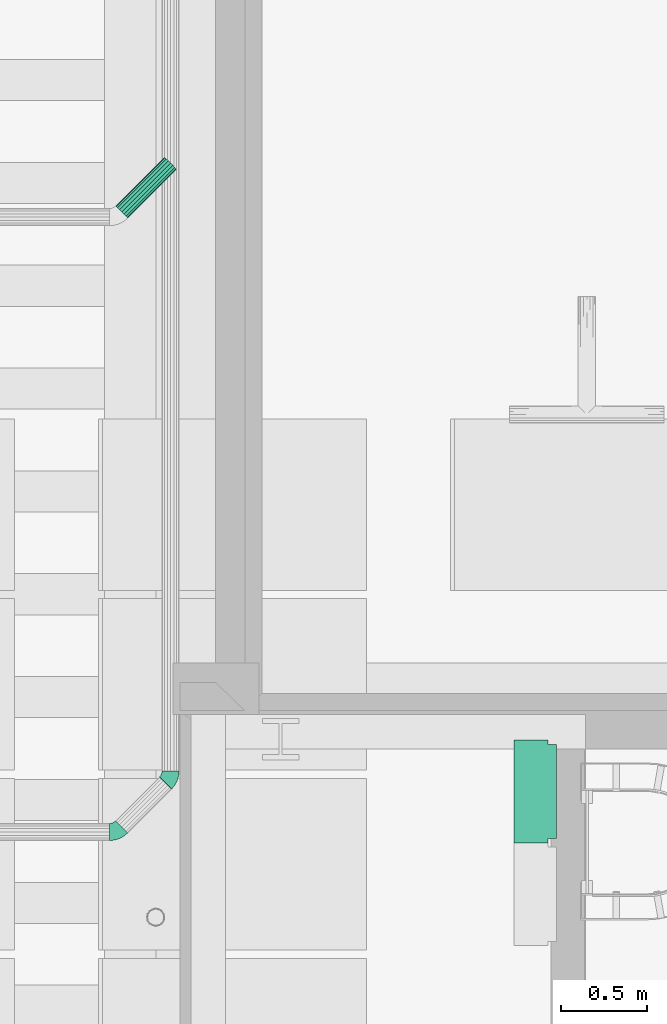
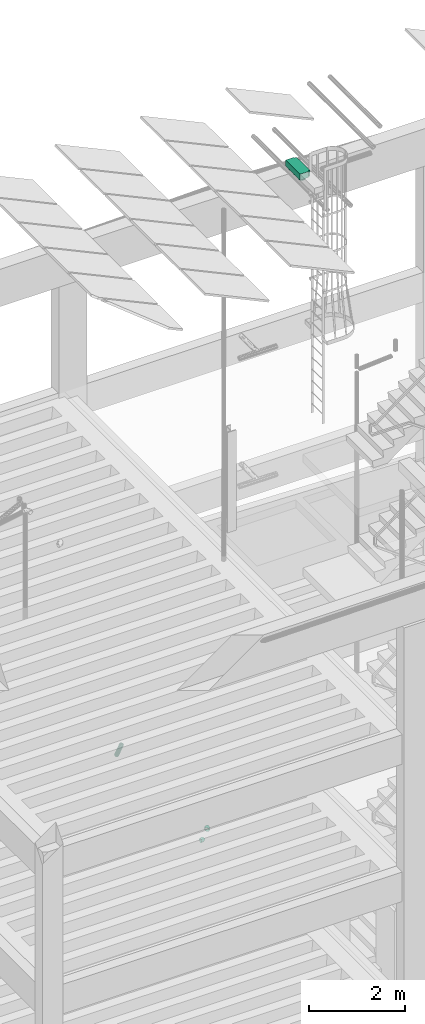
# One storey, part 84 of 108: 3 flow fittings, 1 flow segment.
"""IFC2X3 building model written with IfcOpenShell, lengths in metres."""

from ifc_helpers import new_model, entity, si_unit, converted_unit, derived_unit, money_unit, direction, frame, origin_with_axes, place, context, subcontext, project, spatial, open_shell, faceted_brep, surface_model, material, type_object, element, save


model = new_model("IFC2X3")

# Units and contexts
model_context = context("Model", 3, precision=1e-05, world=origin_with_axes(), true_north=direction((0.0, 1.0)))
body_context = subcontext(model_context, "Body", "Model", "MODEL_VIEW", scale=1.0)
ifc_project = project(units=[si_unit("LENGTHUNIT", "METRE"), si_unit("AREAUNIT", "SQUARE_METRE"), si_unit("VOLUMEUNIT", "CUBIC_METRE"), si_unit("ABSORBEDDOSEUNIT", "GRAY"), si_unit("AMOUNTOFSUBSTANCEUNIT", "MOLE"), si_unit("DOSEEQUIVALENTUNIT", "SIEVERT"), si_unit("ELECTRICCAPACITANCEUNIT", "FARAD"), si_unit("ELECTRICCHARGEUNIT", "COULOMB"), si_unit("ELECTRICCONDUCTANCEUNIT", "SIEMENS"), si_unit("ELECTRICCURRENTUNIT", "AMPERE"), si_unit("ELECTRICRESISTANCEUNIT", "OHM"), si_unit("ELECTRICVOLTAGEUNIT", "VOLT"), si_unit("ENERGYUNIT", "JOULE"), si_unit("FORCEUNIT", "NEWTON"), si_unit("FREQUENCYUNIT", "HERTZ"), si_unit("ILLUMINANCEUNIT", "LUX"), si_unit("INDUCTANCEUNIT", "HENRY"), si_unit("LUMINOUSFLUXUNIT", "LUMEN"), si_unit("LUMINOUSINTENSITYUNIT", "CANDELA"), si_unit("MAGNETICFLUXDENSITYUNIT", "TESLA"), si_unit("MAGNETICFLUXUNIT", "WEBER"), si_unit("MASSUNIT", "GRAM"), converted_unit("PLANEANGLEUNIT", "degree", entity("IfcReal", 0.0174532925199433), si_unit("PLANEANGLEUNIT", "RADIAN"), dimensions=[0, 0, 0, 0, 0, 0, 0]), si_unit("POWERUNIT", "WATT"), si_unit("PRESSUREUNIT", "PASCAL"), si_unit("RADIOACTIVITYUNIT", "BECQUEREL"), si_unit("SOLIDANGLEUNIT", "STERADIAN"), si_unit("THERMODYNAMICTEMPERATUREUNIT", "KELVIN"), si_unit("TIMEUNIT", "SECOND"), derived_unit("ACCELERATIONUNIT", [(si_unit("LENGTHUNIT", "METRE"), 1), (si_unit("TIMEUNIT", "SECOND"), -2)]), derived_unit("ANGULARVELOCITYUNIT", [(converted_unit("PLANEANGLEUNIT", "degree", entity("IfcReal", 0.0174532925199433), si_unit("PLANEANGLEUNIT", "RADIAN"), dimensions=[0, 0, 0, 0, 0, 0, 0]), 1), (si_unit("TIMEUNIT", "SECOND"), -1)]), derived_unit("CURVATUREUNIT", [(converted_unit("PLANEANGLEUNIT", "degree", entity("IfcReal", 0.0174532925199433), si_unit("PLANEANGLEUNIT", "RADIAN"), dimensions=[0, 0, 0, 0, 0, 0, 0]), 1), (si_unit("LENGTHUNIT", "METRE"), -1)]), derived_unit("DYNAMICVISCOSITYUNIT", [(si_unit("PRESSUREUNIT", "PASCAL"), 1), (si_unit("TIMEUNIT", "SECOND"), 1)]), derived_unit("HEATFLUXDENSITYUNIT", [(si_unit("POWERUNIT", "WATT"), 1), (si_unit("LENGTHUNIT", "METRE"), -2)]), derived_unit("HEATINGVALUEUNIT", [(si_unit("ENERGYUNIT", "JOULE"), 1), (si_unit("MASSUNIT", "GRAM"), -1)]), derived_unit("INTEGERCOUNTRATEUNIT", [(si_unit("TIMEUNIT", "SECOND"), -1)]), derived_unit("IONCONCENTRATIONUNIT", [(si_unit("MASSUNIT", "GRAM"), 1), (si_unit("VOLUMEUNIT", "CUBIC_METRE"), -1)]), derived_unit("ISOTHERMALMOISTURECAPACITYUNIT", [(si_unit("VOLUMEUNIT", "CUBIC_METRE"), 1), (si_unit("MASSUNIT", "GRAM"), -1)]), derived_unit("KINEMATICVISCOSITYUNIT", [(si_unit("AREAUNIT", "SQUARE_METRE"), 1), (si_unit("TIMEUNIT", "SECOND"), -1)]), derived_unit("LINEARFORCEUNIT", [(si_unit("FORCEUNIT", "NEWTON"), 1), (si_unit("LENGTHUNIT", "METRE"), -1)]), derived_unit("LINEARMOMENTUNIT", [(si_unit("FORCEUNIT", "NEWTON"), 1), (si_unit("LENGTHUNIT", "METRE"), -1)]), derived_unit("LINEARSTIFFNESSUNIT", [(si_unit("FORCEUNIT", "NEWTON"), 1), (si_unit("LENGTHUNIT", "METRE"), -1)]), derived_unit("LINEARVELOCITYUNIT", [(si_unit("LENGTHUNIT", "METRE"), 1), (si_unit("TIMEUNIT", "SECOND"), -1)]), derived_unit("LUMINOUSINTENSITYDISTRIBUTIONUNIT", [(si_unit("LUMINOUSINTENSITYUNIT", "CANDELA"), 1), (si_unit("LUMINOUSFLUXUNIT", "LUMEN"), -1)]), derived_unit("MASSDENSITYUNIT", [(si_unit("MASSUNIT", "GRAM"), 1), (si_unit("VOLUMEUNIT", "CUBIC_METRE"), -1)]), derived_unit("MASSFLOWRATEUNIT", [(si_unit("MASSUNIT", "GRAM"), 1), (si_unit("TIMEUNIT", "SECOND"), -1)]), derived_unit("MASSPERLENGTHUNIT", [(si_unit("MASSUNIT", "GRAM"), 1), (si_unit("LENGTHUNIT", "METRE"), -1)]), derived_unit("MODULUSOFELASTICITYUNIT", [(si_unit("FORCEUNIT", "NEWTON"), 1), (si_unit("AREAUNIT", "SQUARE_METRE"), -1)]), derived_unit("MODULUSOFLINEARSUBGRADEREACTIONUNIT", [(si_unit("FORCEUNIT", "NEWTON"), 1), (si_unit("LENGTHUNIT", "METRE"), -2)]), derived_unit("MODULUSOFROTATIONALSUBGRADEREACTIONUNIT", [(si_unit("FORCEUNIT", "NEWTON"), 1), (si_unit("LENGTHUNIT", "METRE"), 1)]), derived_unit("MODULUSOFSUBGRADEREACTIONUNIT", [(si_unit("FORCEUNIT", "NEWTON"), 1), (si_unit("VOLUMEUNIT", "CUBIC_METRE"), -1)]), derived_unit("MOISTUREDIFFUSIVITYUNIT", [(si_unit("VOLUMEUNIT", "CUBIC_METRE"), 1), (si_unit("TIMEUNIT", "SECOND"), -1)]), derived_unit("MOLECULARWEIGHTUNIT", [(si_unit("MASSUNIT", "GRAM"), 1), (si_unit("AMOUNTOFSUBSTANCEUNIT", "MOLE"), -1)]), derived_unit("PLANARFORCEUNIT", [(si_unit("FORCEUNIT", "NEWTON"), 1), (si_unit("LENGTHUNIT", "METRE"), -2)]), derived_unit("ROTATIONALFREQUENCYUNIT", [(si_unit("TIMEUNIT", "SECOND"), -1)]), derived_unit("ROTATIONALMASSUNIT", [(si_unit("MASSUNIT", "GRAM"), 1), (si_unit("LENGTHUNIT", "METRE"), 2)]), derived_unit("ROTATIONALSTIFFNESSUNIT", [(si_unit("FORCEUNIT", "NEWTON"), 1), (si_unit("LENGTHUNIT", "METRE"), 1), (converted_unit("PLANEANGLEUNIT", "degree", entity("IfcReal", 0.0174532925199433), si_unit("PLANEANGLEUNIT", "RADIAN"), dimensions=[0, 0, 0, 0, 0, 0, 0]), -1)]), derived_unit("SECTIONAREAINTEGRALUNIT", [(si_unit("LENGTHUNIT", "METRE"), 5)]), derived_unit("SECTIONMODULUSUNIT", [(si_unit("LENGTHUNIT", "METRE"), 3)]), derived_unit("SHEARMODULUSUNIT", [(si_unit("FORCEUNIT", "NEWTON"), 1), (si_unit("AREAUNIT", "SQUARE_METRE"), -1)]), derived_unit("SOUNDPOWERUNIT", [(si_unit("ENERGYUNIT", "JOULE"), 1), (si_unit("TIMEUNIT", "SECOND"), -1)]), derived_unit("SPECIFICHEATCAPACITYUNIT", [(si_unit("FORCEUNIT", "NEWTON"), 1), (si_unit("MASSUNIT", "GRAM"), -1), (si_unit("THERMODYNAMICTEMPERATUREUNIT", "KELVIN"), -1)]), derived_unit("TEMPERATUREGRADIENTUNIT", [(si_unit("THERMODYNAMICTEMPERATUREUNIT", "KELVIN"), 1), (si_unit("LENGTHUNIT", "METRE"), -1)]), derived_unit("THERMALADMITTANCEUNIT", [(si_unit("POWERUNIT", "WATT"), 1), (si_unit("AREAUNIT", "SQUARE_METRE"), -1), (si_unit("THERMODYNAMICTEMPERATUREUNIT", "KELVIN"), -1)]), derived_unit("THERMALCONDUCTANCEUNIT", [(si_unit("POWERUNIT", "WATT"), 1), (si_unit("LENGTHUNIT", "METRE"), -1), (si_unit("THERMODYNAMICTEMPERATUREUNIT", "KELVIN"), -1)]), derived_unit("THERMALEXPANSIONCOEFFICIENTUNIT", [(si_unit("THERMODYNAMICTEMPERATUREUNIT", "KELVIN"), -1)]), derived_unit("THERMALRESISTANCEUNIT", [(si_unit("AREAUNIT", "SQUARE_METRE"), 1), (si_unit("POWERUNIT", "WATT"), -1)]), derived_unit("THERMALTRANSMITTANCEUNIT", [(si_unit("POWERUNIT", "WATT"), 1), (si_unit("AREAUNIT", "SQUARE_METRE"), -1), (si_unit("THERMODYNAMICTEMPERATUREUNIT", "KELVIN"), -1)]), derived_unit("TORQUEUNIT", [(si_unit("FORCEUNIT", "NEWTON"), 1), (si_unit("LENGTHUNIT", "METRE"), 1)]), derived_unit("VAPORPERMEABILITYUNIT", [(si_unit("MASSUNIT", "GRAM"), 1), (si_unit("TIMEUNIT", "SECOND"), -1)]), derived_unit("VOLUMETRICFLOWRATEUNIT", [(si_unit("VOLUMEUNIT", "CUBIC_METRE"), 1), (si_unit("TIMEUNIT", "SECOND"), -1)]), derived_unit("WARPINGCONSTANTUNIT", [(si_unit("LENGTHUNIT", "METRE"), 6)]), derived_unit("WARPINGMOMENTUNIT", [(si_unit("FORCEUNIT", "NEWTON"), 1), (si_unit("LENGTHUNIT", "METRE"), 2)]), money_unit("GBP")], contexts=[model_context])

# Site, building, storey
site_placement = place(None, origin_with_axes())
site = spatial("IfcSite", under=ifc_project, at=site_placement, Name="Site", CompositionType="ELEMENT")
building_placement = place(site_placement, origin_with_axes())
building = spatial("IfcBuilding", under=site, at=building_placement, Name="Building01", CompositionType="ELEMENT")
storey_placement = place(building_placement, origin_with_axes())
storey = spatial("IfcBuildingStorey", under=building, at=storey_placement, Name="GF", CompositionType="ELEMENT", Elevation=0.0)

# Flow fitting
ifc_material_1 = material(Name="M_BSUK_Ventilation")
duct_fitting_type = type_object("IfcDuctFittingType", Name="M-PlenumBoxRoundMultiPort-Side", PredefinedType="JUNCTION")
flow_fitting_1_placement = place(storey_placement, frame((11.1118, 8.399939, 20.689914), z_axis=(-1.0, 0.0, 0.0), x_axis=(0.0, 0.0, 1.0)))
element("IfcFlowFitting", 1, at=flow_fitting_1_placement, inside=storey, type_object=duct_fitting_type, material=ifc_material_1, Name="M-PlenumBoxRoundMultiPort-Side", ObjectType="M-PlenumBoxRoundMultiPort-Side", context=body_context, shape_type="SurfaceModel", body=[
    surface_model("IfcShellBasedSurfaceModel", [(-0.075, 0.3, 0.0), (-0.075, 0.3, 0.2), (-0.075, -0.3, 0.2), (-0.075, -0.3, 0.0), (-0.075, -0.071329, 0.123176), (-0.075, -0.060676, 0.144084), (-0.075, -0.044084, 0.160676), (-0.075, -0.023176, 0.171329), (-0.075, 0.0, 0.175), (-0.075, 0.023176, 0.171329), (-0.075, 0.044084, 0.160676), (-0.075, 0.060676, 0.144084), (-0.075, 0.071329, 0.123176), (-0.075, 0.075, 0.1), (-0.075, 0.071329, 0.076824), (-0.075, 0.060676, 0.055916), (-0.075, 0.044084, 0.039324), (-0.075, 0.023176, 0.028671), (-0.075, 0.0, 0.025), (-0.075, -0.023176, 0.028671), (-0.075, -0.044084, 0.039324), (-0.075, -0.060676, 0.055916), (-0.075, -0.071329, 0.076824), (-0.075, -0.075, 0.1), (-0.075, 0.128671, 0.123176), (-0.075, 0.139324, 0.144084), (-0.075, 0.155916, 0.160676), (-0.075, 0.176824, 0.171329), (-0.075, 0.2, 0.175), (-0.075, 0.223176, 0.171329), (-0.075, 0.244084, 0.160676), (-0.075, 0.260676, 0.144084), (-0.075, 0.271329, 0.123176), (-0.075, 0.275, 0.1), (-0.075, 0.271329, 0.076824), (-0.075, 0.260676, 0.055916), (-0.075, 0.244084, 0.039324), (-0.075, 0.223176, 0.028671), (-0.075, 0.2, 0.025), (-0.075, 0.176824, 0.028671), (-0.075, 0.155916, 0.039324), (-0.075, 0.139324, 0.055916), (-0.075, 0.128671, 0.076824), (-0.075, 0.125, 0.1), (-0.075, -0.271329, 0.123176), (-0.075, -0.260676, 0.144084), (-0.075, -0.244084, 0.160676), (-0.075, -0.223176, 0.171329), (-0.075, -0.2, 0.175), (-0.075, -0.176824, 0.171329), (-0.075, -0.155916, 0.160676), (-0.075, -0.139324, 0.144084), (-0.075, -0.128671, 0.123176), (-0.075, -0.125, 0.1), (-0.075, -0.128671, 0.076824), (-0.075, -0.139324, 0.055916), (-0.075, -0.155916, 0.039324), (-0.075, -0.176824, 0.028671), (-0.075, -0.2, 0.025), (-0.075, -0.223176, 0.028671), (-0.075, -0.244084, 0.039324), (-0.075, -0.260676, 0.055916), (-0.075, -0.271329, 0.076824), (-0.075, -0.275, 0.1), (0.075, 0.3, 0.2), (0.075, 0.3, 0.0), (0.075, -0.3, 0.0), (0.075, -0.3, 0.2), (-0.07495, -0.275, 0.0), (0.07495, -0.275, 0.0), (0.07495, 0.275, 0.0), (-0.07495, 0.275, 0.0), (0.075, 0.275, -0.05), (-0.075, 0.275, -0.05), (-0.075, 0.275, 0.0), (0.075, 0.275, 0.0), (-0.075, -0.275, -0.05), (-0.075, -0.275, 0.0), (0.075, -0.275, -0.05), (0.075, -0.275, 0.0), (-0.125, -0.2, 0.025), (-0.125, -0.223176, 0.028671), (-0.125, -0.244084, 0.039324), (-0.125, -0.260676, 0.055916), (-0.125, -0.271329, 0.076824), (-0.125, -0.275, 0.1), (-0.125, -0.271329, 0.123176), (-0.125, -0.260676, 0.144084), (-0.125, -0.244084, 0.160676), (-0.125, -0.223176, 0.171329), (-0.125, -0.2, 0.175), (-0.125, -0.176824, 0.171329), (-0.125, -0.155916, 0.160676), (-0.125, -0.139324, 0.144084), (-0.125, -0.128671, 0.123176), (-0.125, -0.125, 0.1), (-0.125, -0.128671, 0.076824), (-0.125, -0.139324, 0.055916), (-0.125, -0.155916, 0.039324), (-0.125, -0.176824, 0.028671), (-0.125, 0.0, 0.025), (-0.125, -0.023176, 0.028671), (-0.125, -0.044084, 0.039324), (-0.125, -0.060676, 0.055916), (-0.125, -0.071329, 0.076824), (-0.125, -0.075, 0.1), (-0.125, -0.071329, 0.123176), (-0.125, -0.060676, 0.144084), (-0.125, -0.044084, 0.160676), (-0.125, -0.023176, 0.171329), (-0.125, 0.0, 0.175), (-0.125, 0.023176, 0.171329), (-0.125, 0.044084, 0.160676), (-0.125, 0.060676, 0.144084), (-0.125, 0.071329, 0.123176), (-0.125, 0.075, 0.1), (-0.125, 0.071329, 0.076824), (-0.125, 0.060676, 0.055916), (-0.125, 0.044084, 0.039324), (-0.125, 0.023176, 0.028671), (-0.125, 0.2, 0.025), (-0.125, 0.176824, 0.028671), (-0.125, 0.155916, 0.039324), (-0.125, 0.139324, 0.055916), (-0.125, 0.128671, 0.076824), (-0.125, 0.125, 0.1), (-0.125, 0.128671, 0.123176), (-0.125, 0.139324, 0.144084), (-0.125, 0.155916, 0.160676), (-0.125, 0.176824, 0.171329), (-0.125, 0.2, 0.175), (-0.125, 0.223176, 0.171329), (-0.125, 0.244084, 0.160676), (-0.125, 0.260676, 0.144084), (-0.125, 0.271329, 0.123176), (-0.125, 0.275, 0.1), (-0.125, 0.271329, 0.076824), (-0.125, 0.260676, 0.055916), (-0.125, 0.244084, 0.039324), (-0.125, 0.223176, 0.028671)], [open_shell([[[0, 1, 2, 3], [4, 5, 6, 7, 8, 9, 10, 11, 12, 13, 14, 15, 16, 17, 18, 19, 20, 21, 22, 23], [24, 25, 26, 27, 28, 29, 30, 31, 32, 33, 34, 35, 36, 37, 38, 39, 40, 41, 42, 43], [44, 45, 46, 47, 48, 49, 50, 51, 52, 53, 54, 55, 56, 57, 58, 59, 60, 61, 62, 63]], [[64, 65, 0, 1]], [[2, 3, 66, 67]], [[65, 66, 3, 0], [68, 69, 70, 71]], [[72, 73, 74, 71, 70, 75]], [[73, 76, 77, 74]], [[78, 72, 75, 79]], [[76, 78, 79, 69, 68, 77]], [[65, 64, 67, 66]], [[67, 64, 1, 2]], [[80, 58, 59, 81]], [[81, 59, 60, 82]], [[82, 60, 61, 83]], [[83, 61, 62, 84]], [[84, 62, 63, 85]], [[85, 63, 44, 86]], [[86, 44, 45, 87]], [[87, 45, 46, 88]], [[88, 46, 47, 89]], [[89, 47, 48, 90]], [[90, 48, 49, 91]], [[91, 49, 50, 92]], [[92, 50, 51, 93]], [[93, 51, 52, 94]], [[94, 52, 53, 95]], [[95, 53, 54, 96]], [[96, 54, 55, 97]], [[97, 55, 56, 98]], [[98, 56, 57, 99]], [[99, 57, 58, 80]], [[100, 18, 19, 101]], [[101, 19, 20, 102]], [[102, 20, 21, 103]], [[103, 21, 22, 104]], [[104, 22, 23, 105]], [[105, 23, 4, 106]], [[106, 4, 5, 107]], [[107, 5, 6, 108]], [[108, 6, 7, 109]], [[109, 7, 8, 110]], [[110, 8, 9, 111]], [[111, 9, 10, 112]], [[112, 10, 11, 113]], [[113, 11, 12, 114]], [[114, 12, 13, 115]], [[115, 13, 14, 116]], [[116, 14, 15, 117]], [[117, 15, 16, 118]], [[118, 16, 17, 119]], [[119, 17, 18, 100]], [[120, 38, 39, 121]], [[121, 39, 40, 122]], [[122, 40, 41, 123]], [[123, 41, 42, 124]], [[124, 42, 43, 125]], [[125, 43, 24, 126]], [[126, 24, 25, 127]], [[127, 25, 26, 128]], [[128, 26, 27, 129]], [[129, 27, 28, 130]], [[130, 28, 29, 131]], [[131, 29, 30, 132]], [[132, 30, 31, 133]], [[133, 31, 32, 134]], [[134, 32, 33, 135]], [[135, 33, 34, 136]], [[136, 34, 35, 137]], [[137, 35, 36, 138]], [[138, 36, 37, 139]], [[139, 37, 38, 120]]])]),
])

# Space
space_placement = place(storey_placement, frame((3.380525, 16.69365, 0.216987), z_axis=(0.0, 0.0, 1.0), x_axis=(-1.0, 0.0, 0.0)))
space = spatial("IfcSpace", under=storey, at=space_placement, Name="0", CompositionType="ELEMENT", InteriorOrExteriorSpace="NOTDEFINED")

# Flow segment
ifc_material_2 = material(Name="M_BSUK_ColdWater")
pipe_segment_type = type_object("IfcPipeSegmentType", Name="M-BmpStraightpipe-DefaultPipe", PredefinedType="RIGIDSEGMENT")
flow_segment_placement = place(storey_placement, frame((8.624542, 11.779284, 4.577875), z_axis=(0.00883814, 0.00883814, 0.99992188), x_axis=(0.70705154, 0.70705154, -0.01249902)))
element("IfcFlowSegment", 2, at=flow_segment_placement, inside=space, type_object=pipe_segment_type, material=ifc_material_2, Name="M-BmpStraightpipe-DefaultPipe", ObjectType="M-BmpStraightpipe-DefaultPipe", context=body_context, shape_type="Brep", body=[
    faceted_brep([(0.403638, 0.0, -0.05), (0.0, 0.0, -0.05), (0.0, 0.019134, -0.046194), (0.403638, 0.019134, -0.046194), (0.0, 0.035355, -0.035355), (0.403638, 0.035355, -0.035355), (0.0, 0.046194, -0.019134), (0.403638, 0.046194, -0.019134), (0.0, 0.05, 0.0), (0.403638, 0.05, 0.0), (0.0, 0.046194, 0.019134), (0.403638, 0.046194, 0.019134), (0.0, 0.035355, 0.035355), (0.403638, 0.035355, 0.035355), (0.0, 0.019134, 0.046194), (0.403638, 0.019134, 0.046194), (0.0, 0.0, 0.05), (0.403638, 0.0, 0.05), (0.0, -0.019134, 0.046194), (0.403638, -0.019134, 0.046194), (0.0, -0.035355, 0.035355), (0.403638, -0.035355, 0.035355), (0.0, -0.046194, 0.019134), (0.403638, -0.046194, 0.019134), (0.0, -0.05, 0.0), (0.403638, -0.05, 0.0), (0.0, -0.046194, -0.019134), (0.403638, -0.046194, -0.019134), (0.0, -0.035355, -0.035355), (0.403638, -0.035355, -0.035355), (0.0, -0.019134, -0.046194), (0.403638, -0.019134, -0.046194)], [[[0, 1, 2, 3]], [[3, 2, 4, 5]], [[5, 4, 6, 7]], [[7, 6, 8, 9]], [[9, 8, 10, 11]], [[11, 10, 12, 13]], [[13, 12, 14, 15]], [[15, 14, 16, 17]], [[17, 16, 18, 19]], [[19, 18, 20, 21]], [[21, 20, 22, 23]], [[23, 22, 24, 25]], [[25, 24, 26, 27]], [[27, 26, 28, 29]], [[29, 28, 30, 31]], [[31, 30, 1, 0]]]),
])

# Flow fittings
pipe_fitting_type = type_object("IfcPipeFittingType", Name="M-BmpElbow-DefaultElbow", PredefinedType="BEND")
flow_fitting_2_placement = place(storey_placement, frame((8.553844, 8.16317, 4.623783), z_axis=(6.471e-05, -0.9999866, 0.00517679), x_axis=(0.99992188, 0.0, -0.01249902)))
element("IfcFlowFitting", 3, at=flow_fitting_2_placement, inside=space, type_object=pipe_fitting_type, material=ifc_material_2, Name="M-BmpElbow-DefaultElbow", ObjectType="M-BmpElbow-DefaultElbow", context=body_context, shape_type="SurfaceModel", body=[
    surface_model("IfcShellBasedSurfaceModel", [(0.008111, -0.01349, -0.048784), (0.0, -0.01349, -0.048146), (0.0, 0.0, -0.05), (0.007821, 0.0, -0.050615), (0.016023, -0.01349, -0.050683), (0.01545, 0.0, -0.052447), (0.023539, -0.01349, -0.053797), (0.022698, 0.0, -0.055449), (0.030477, -0.01349, -0.058048), (0.029387, 0.0, -0.059548), (0.036664, -0.01349, -0.063331), (0.035353, 0.0, -0.064642), (0.00896, -0.025979, -0.043426), (0.0, -0.025979, -0.042721), (0.017699, -0.025979, -0.045524), (0.026002, -0.025979, -0.048963), (0.033665, -0.025979, -0.053659), (0.0405, -0.025979, -0.059495), (0.010304, -0.036542, -0.034939), (0.0, -0.036542, -0.034128), (0.020354, -0.036542, -0.037351), (0.029903, -0.036542, -0.041306), (0.038716, -0.036542, -0.046706), (0.046576, -0.036542, -0.053418), (0.012044, -0.044394, -0.023951), (0.0, -0.044394, -0.023003), (0.023791, -0.044394, -0.026771), (0.034953, -0.044394, -0.031394), (0.045254, -0.044394, -0.037706), (0.054441, -0.044394, -0.045552), (0.014051, -0.048954, -0.011279), (0.0, -0.048954, -0.010173), (0.027756, -0.048954, -0.014569), (0.040778, -0.048954, -0.019962), (0.052795, -0.048954, -0.027326), (0.063513, -0.048954, -0.036478), (0.016176, -0.049883, 0.002139), (0.0, -0.049883, 0.003412), (0.031954, -0.049883, -0.001648), (0.046945, -0.049883, -0.007857), (0.06078, -0.049883, -0.016335), (0.073119, -0.049883, -0.026872), (0.018261, -0.047113, 0.015307), (0.0, -0.047113, 0.016744), (0.036073, -0.047113, 0.011031), (0.052997, -0.047113, 0.004022), (0.068616, -0.047113, -0.005549), (0.082545, -0.047113, -0.017444), (0.020152, -0.040848, 0.027248), (0.0, -0.040848, 0.028834), (0.039809, -0.040848, 0.022529), (0.058485, -0.040848, 0.014794), (0.075721, -0.040848, 0.004233), (0.091094, -0.040848, -0.008895), (0.021709, -0.031554, 0.037077), (0.0, -0.031554, 0.038786), (0.042884, -0.031554, 0.031994), (0.063003, -0.031554, 0.023661), (0.08157, -0.031554, 0.012284), (0.09813, -0.031554, -0.001857), (0.022816, -0.01992, 0.044065), (0.0, -0.01992, 0.045861), (0.04507, -0.01992, 0.038723), (0.066214, -0.01992, 0.029965), (0.085729, -0.01992, 0.018008), (0.103132, -0.01992, 0.003146), (0.02339, -0.006808, 0.047694), (0.0, -0.006808, 0.049534), (0.046205, -0.006808, 0.042217), (0.067882, -0.006808, 0.033239), (0.087888, -0.006808, 0.02098), (0.10573, -0.006808, 0.005744), (0.02339, 0.006808, 0.047694), (0.0, 0.006808, 0.049534), (0.046205, 0.006808, 0.042217), (0.067882, 0.006808, 0.033239), (0.087888, 0.006808, 0.02098), (0.10573, 0.006808, 0.005744), (0.022816, 0.01992, 0.044065), (0.0, 0.01992, 0.045861), (0.04507, 0.01992, 0.038723), (0.066214, 0.01992, 0.029965), (0.085729, 0.01992, 0.018008), (0.103132, 0.01992, 0.003146), (0.021709, 0.031554, 0.037077), (0.0, 0.031554, 0.038786), (0.042884, 0.031554, 0.031994), (0.063003, 0.031554, 0.023661), (0.08157, 0.031554, 0.012284), (0.09813, 0.031554, -0.001857), (0.020152, 0.040848, 0.027248), (0.0, 0.040848, 0.028834), (0.039809, 0.040848, 0.022529), (0.058485, 0.040848, 0.014794), (0.075721, 0.040848, 0.004233), (0.091094, 0.040848, -0.008895), (0.018261, 0.047113, 0.015307), (0.0, 0.047113, 0.016744), (0.036073, 0.047113, 0.011031), (0.052997, 0.047113, 0.004022), (0.068616, 0.047113, -0.005549), (0.082545, 0.047113, -0.017444), (0.016176, 0.049883, 0.002139), (0.0, 0.049883, 0.003412), (0.031954, 0.049883, -0.001648), (0.046945, 0.049883, -0.007857), (0.06078, 0.049883, -0.016335), (0.073119, 0.049883, -0.026872), (0.014051, 0.048954, -0.011279), (0.0, 0.048954, -0.010173), (0.027756, 0.048954, -0.014569), (0.040778, 0.048954, -0.019962), (0.052795, 0.048954, -0.027326), (0.063513, 0.048954, -0.036478), (0.012044, 0.044394, -0.023951), (0.0, 0.044394, -0.023003), (0.023791, 0.044394, -0.026771), (0.034953, 0.044394, -0.031394), (0.045254, 0.044394, -0.037706), (0.054441, 0.044394, -0.045552), (0.010304, 0.036542, -0.034939), (0.0, 0.036542, -0.034128), (0.020354, 0.036542, -0.037351), (0.029903, 0.036542, -0.041306), (0.038716, 0.036542, -0.046706), (0.046576, 0.036542, -0.053418), (0.00896, 0.025979, -0.043426), (0.0, 0.025979, -0.042721), (0.017699, 0.025979, -0.045524), (0.026002, 0.025979, -0.048963), (0.033665, 0.025979, -0.053659), (0.0405, 0.025979, -0.059495), (0.008111, 0.01349, -0.048784), (0.0, 0.01349, -0.048146), (0.016023, 0.01349, -0.050683), (0.023539, 0.01349, -0.053797), (0.030477, 0.01349, -0.058048), (0.036664, 0.01349, -0.063331)], [open_shell([[[0, 1, 2, 3]], [[4, 0, 3, 5]], [[6, 4, 5, 7]], [[8, 6, 7, 9]], [[10, 8, 9, 11]], [[12, 13, 1, 0]], [[14, 12, 0, 4]], [[15, 14, 4, 6]], [[16, 15, 6, 8]], [[17, 16, 8, 10]], [[18, 19, 13, 12]], [[20, 18, 12, 14]], [[21, 20, 14, 15]], [[22, 21, 15, 16]], [[23, 22, 16, 17]], [[24, 25, 19, 18]], [[26, 24, 18, 20]], [[27, 26, 20, 21]], [[28, 27, 21, 22]], [[29, 28, 22, 23]], [[30, 31, 25, 24]], [[32, 30, 24, 26]], [[33, 32, 26, 27]], [[34, 33, 27, 28]], [[35, 34, 28, 29]], [[36, 37, 31, 30]], [[38, 36, 30, 32]], [[39, 38, 32, 33]], [[40, 39, 33, 34]], [[41, 40, 34, 35]], [[42, 43, 37, 36]], [[44, 42, 36, 38]], [[45, 44, 38, 39]], [[46, 45, 39, 40]], [[47, 46, 40, 41]], [[48, 49, 43, 42]], [[50, 48, 42, 44]], [[51, 50, 44, 45]], [[52, 51, 45, 46]], [[53, 52, 46, 47]], [[54, 55, 49, 48]], [[56, 54, 48, 50]], [[57, 56, 50, 51]], [[58, 57, 51, 52]], [[59, 58, 52, 53]], [[60, 61, 55, 54]], [[62, 60, 54, 56]], [[63, 62, 56, 57]], [[64, 63, 57, 58]], [[65, 64, 58, 59]], [[66, 67, 61, 60]], [[68, 66, 60, 62]], [[69, 68, 62, 63]], [[70, 69, 63, 64]], [[71, 70, 64, 65]], [[72, 73, 67, 66]], [[74, 72, 66, 68]], [[75, 74, 68, 69]], [[76, 75, 69, 70]], [[77, 76, 70, 71]], [[78, 79, 73, 72]], [[80, 78, 72, 74]], [[81, 80, 74, 75]], [[82, 81, 75, 76]], [[83, 82, 76, 77]], [[84, 85, 79, 78]], [[86, 84, 78, 80]], [[87, 86, 80, 81]], [[88, 87, 81, 82]], [[89, 88, 82, 83]], [[90, 91, 85, 84]], [[92, 90, 84, 86]], [[93, 92, 86, 87]], [[94, 93, 87, 88]], [[95, 94, 88, 89]], [[96, 97, 91, 90]], [[98, 96, 90, 92]], [[99, 98, 92, 93]], [[100, 99, 93, 94]], [[101, 100, 94, 95]], [[102, 103, 97, 96]], [[104, 102, 96, 98]], [[105, 104, 98, 99]], [[106, 105, 99, 100]], [[107, 106, 100, 101]], [[108, 109, 103, 102]], [[110, 108, 102, 104]], [[111, 110, 104, 105]], [[112, 111, 105, 106]], [[113, 112, 106, 107]], [[114, 115, 109, 108]], [[116, 114, 108, 110]], [[117, 116, 110, 111]], [[118, 117, 111, 112]], [[119, 118, 112, 113]], [[120, 121, 115, 114]], [[122, 120, 114, 116]], [[123, 122, 116, 117]], [[124, 123, 117, 118]], [[125, 124, 118, 119]], [[126, 127, 121, 120]], [[128, 126, 120, 122]], [[129, 128, 122, 123]], [[130, 129, 123, 124]], [[131, 130, 124, 125]], [[132, 133, 127, 126]], [[134, 132, 126, 128]], [[135, 134, 128, 129]], [[136, 135, 129, 130]], [[137, 136, 130, 131]], [[3, 2, 133, 132]], [[5, 3, 132, 134]], [[7, 5, 134, 135]], [[9, 7, 135, 136]], [[11, 9, 136, 137]]])]),
])
flow_fitting_3_placement = place(storey_placement, frame((8.880651, 8.448563, 4.618221), z_axis=(0.70714306, -0.70705155, 0.00517679), x_axis=(0.70705154, 0.70705154, -0.01249902)))
element("IfcFlowFitting", 4, at=flow_fitting_3_placement, inside=space, type_object=pipe_fitting_type, material=ifc_material_2, Name="M-BmpElbow-DefaultElbow", ObjectType="M-BmpElbow-DefaultElbow", context=body_context, shape_type="SurfaceModel", body=[
    surface_model("IfcShellBasedSurfaceModel", [(0.008111, -0.01349, -0.048784), (0.0, -0.01349, -0.048146), (0.0, 0.0, -0.05), (0.007821, 0.0, -0.050615), (0.016023, -0.01349, -0.050683), (0.01545, 0.0, -0.052447), (0.023539, -0.01349, -0.053797), (0.022698, 0.0, -0.055449), (0.030477, -0.01349, -0.058048), (0.029387, 0.0, -0.059548), (0.036664, -0.01349, -0.063331), (0.035353, 0.0, -0.064642), (0.00896, -0.025979, -0.043426), (0.0, -0.025979, -0.042721), (0.017699, -0.025979, -0.045524), (0.026002, -0.025979, -0.048963), (0.033665, -0.025979, -0.053659), (0.0405, -0.025979, -0.059495), (0.010304, -0.036542, -0.034939), (0.0, -0.036542, -0.034128), (0.020354, -0.036542, -0.037351), (0.029903, -0.036542, -0.041306), (0.038716, -0.036542, -0.046706), (0.046576, -0.036542, -0.053418), (0.012044, -0.044394, -0.023951), (0.0, -0.044394, -0.023003), (0.023791, -0.044394, -0.026771), (0.034953, -0.044394, -0.031394), (0.045254, -0.044394, -0.037706), (0.054441, -0.044394, -0.045552), (0.014051, -0.048954, -0.011279), (0.0, -0.048954, -0.010173), (0.027756, -0.048954, -0.014569), (0.040778, -0.048954, -0.019962), (0.052795, -0.048954, -0.027326), (0.063513, -0.048954, -0.036478), (0.016176, -0.049883, 0.002139), (0.0, -0.049883, 0.003412), (0.031954, -0.049883, -0.001648), (0.046945, -0.049883, -0.007857), (0.06078, -0.049883, -0.016335), (0.073119, -0.049883, -0.026872), (0.018261, -0.047113, 0.015307), (0.0, -0.047113, 0.016744), (0.036073, -0.047113, 0.011031), (0.052997, -0.047113, 0.004022), (0.068616, -0.047113, -0.005549), (0.082545, -0.047113, -0.017444), (0.020152, -0.040848, 0.027248), (0.0, -0.040848, 0.028834), (0.039809, -0.040848, 0.022529), (0.058485, -0.040848, 0.014794), (0.075721, -0.040848, 0.004233), (0.091094, -0.040848, -0.008895), (0.021709, -0.031554, 0.037077), (0.0, -0.031554, 0.038786), (0.042884, -0.031554, 0.031994), (0.063003, -0.031554, 0.023661), (0.08157, -0.031554, 0.012284), (0.09813, -0.031554, -0.001857), (0.022816, -0.01992, 0.044065), (0.0, -0.01992, 0.045861), (0.04507, -0.01992, 0.038723), (0.066214, -0.01992, 0.029965), (0.085729, -0.01992, 0.018008), (0.103132, -0.01992, 0.003146), (0.02339, -0.006808, 0.047694), (0.0, -0.006808, 0.049534), (0.046205, -0.006808, 0.042217), (0.067882, -0.006808, 0.033239), (0.087888, -0.006808, 0.02098), (0.10573, -0.006808, 0.005744), (0.02339, 0.006808, 0.047694), (0.0, 0.006808, 0.049534), (0.046205, 0.006808, 0.042217), (0.067882, 0.006808, 0.033239), (0.087888, 0.006808, 0.02098), (0.10573, 0.006808, 0.005744), (0.022816, 0.01992, 0.044065), (0.0, 0.01992, 0.045861), (0.04507, 0.01992, 0.038723), (0.066214, 0.01992, 0.029965), (0.085729, 0.01992, 0.018008), (0.103132, 0.01992, 0.003146), (0.021709, 0.031554, 0.037077), (0.0, 0.031554, 0.038786), (0.042884, 0.031554, 0.031994), (0.063003, 0.031554, 0.023661), (0.08157, 0.031554, 0.012284), (0.09813, 0.031554, -0.001857), (0.020152, 0.040848, 0.027248), (0.0, 0.040848, 0.028834), (0.039809, 0.040848, 0.022529), (0.058485, 0.040848, 0.014794), (0.075721, 0.040848, 0.004233), (0.091094, 0.040848, -0.008895), (0.018261, 0.047113, 0.015307), (0.0, 0.047113, 0.016744), (0.036073, 0.047113, 0.011031), (0.052997, 0.047113, 0.004022), (0.068616, 0.047113, -0.005549), (0.082545, 0.047113, -0.017444), (0.016176, 0.049883, 0.002139), (0.0, 0.049883, 0.003412), (0.031954, 0.049883, -0.001648), (0.046945, 0.049883, -0.007857), (0.06078, 0.049883, -0.016335), (0.073119, 0.049883, -0.026872), (0.014051, 0.048954, -0.011279), (0.0, 0.048954, -0.010173), (0.027756, 0.048954, -0.014569), (0.040778, 0.048954, -0.019962), (0.052795, 0.048954, -0.027326), (0.063513, 0.048954, -0.036478), (0.012044, 0.044394, -0.023951), (0.0, 0.044394, -0.023003), (0.023791, 0.044394, -0.026771), (0.034953, 0.044394, -0.031394), (0.045254, 0.044394, -0.037706), (0.054441, 0.044394, -0.045552), (0.010304, 0.036542, -0.034939), (0.0, 0.036542, -0.034128), (0.020354, 0.036542, -0.037351), (0.029903, 0.036542, -0.041306), (0.038716, 0.036542, -0.046706), (0.046576, 0.036542, -0.053418), (0.00896, 0.025979, -0.043426), (0.0, 0.025979, -0.042721), (0.017699, 0.025979, -0.045524), (0.026002, 0.025979, -0.048963), (0.033665, 0.025979, -0.053659), (0.0405, 0.025979, -0.059495), (0.008111, 0.01349, -0.048784), (0.0, 0.01349, -0.048146), (0.016023, 0.01349, -0.050683), (0.023539, 0.01349, -0.053797), (0.030477, 0.01349, -0.058048), (0.036664, 0.01349, -0.063331)], [open_shell([[[0, 1, 2, 3]], [[4, 0, 3, 5]], [[6, 4, 5, 7]], [[8, 6, 7, 9]], [[10, 8, 9, 11]], [[12, 13, 1, 0]], [[14, 12, 0, 4]], [[15, 14, 4, 6]], [[16, 15, 6, 8]], [[17, 16, 8, 10]], [[18, 19, 13, 12]], [[20, 18, 12, 14]], [[21, 20, 14, 15]], [[22, 21, 15, 16]], [[23, 22, 16, 17]], [[24, 25, 19, 18]], [[26, 24, 18, 20]], [[27, 26, 20, 21]], [[28, 27, 21, 22]], [[29, 28, 22, 23]], [[30, 31, 25, 24]], [[32, 30, 24, 26]], [[33, 32, 26, 27]], [[34, 33, 27, 28]], [[35, 34, 28, 29]], [[36, 37, 31, 30]], [[38, 36, 30, 32]], [[39, 38, 32, 33]], [[40, 39, 33, 34]], [[41, 40, 34, 35]], [[42, 43, 37, 36]], [[44, 42, 36, 38]], [[45, 44, 38, 39]], [[46, 45, 39, 40]], [[47, 46, 40, 41]], [[48, 49, 43, 42]], [[50, 48, 42, 44]], [[51, 50, 44, 45]], [[52, 51, 45, 46]], [[53, 52, 46, 47]], [[54, 55, 49, 48]], [[56, 54, 48, 50]], [[57, 56, 50, 51]], [[58, 57, 51, 52]], [[59, 58, 52, 53]], [[60, 61, 55, 54]], [[62, 60, 54, 56]], [[63, 62, 56, 57]], [[64, 63, 57, 58]], [[65, 64, 58, 59]], [[66, 67, 61, 60]], [[68, 66, 60, 62]], [[69, 68, 62, 63]], [[70, 69, 63, 64]], [[71, 70, 64, 65]], [[72, 73, 67, 66]], [[74, 72, 66, 68]], [[75, 74, 68, 69]], [[76, 75, 69, 70]], [[77, 76, 70, 71]], [[78, 79, 73, 72]], [[80, 78, 72, 74]], [[81, 80, 74, 75]], [[82, 81, 75, 76]], [[83, 82, 76, 77]], [[84, 85, 79, 78]], [[86, 84, 78, 80]], [[87, 86, 80, 81]], [[88, 87, 81, 82]], [[89, 88, 82, 83]], [[90, 91, 85, 84]], [[92, 90, 84, 86]], [[93, 92, 86, 87]], [[94, 93, 87, 88]], [[95, 94, 88, 89]], [[96, 97, 91, 90]], [[98, 96, 90, 92]], [[99, 98, 92, 93]], [[100, 99, 93, 94]], [[101, 100, 94, 95]], [[102, 103, 97, 96]], [[104, 102, 96, 98]], [[105, 104, 98, 99]], [[106, 105, 99, 100]], [[107, 106, 100, 101]], [[108, 109, 103, 102]], [[110, 108, 102, 104]], [[111, 110, 104, 105]], [[112, 111, 105, 106]], [[113, 112, 106, 107]], [[114, 115, 109, 108]], [[116, 114, 108, 110]], [[117, 116, 110, 111]], [[118, 117, 111, 112]], [[119, 118, 112, 113]], [[120, 121, 115, 114]], [[122, 120, 114, 116]], [[123, 122, 116, 117]], [[124, 123, 117, 118]], [[125, 124, 118, 119]], [[126, 127, 121, 120]], [[128, 126, 120, 122]], [[129, 128, 122, 123]], [[130, 129, 123, 124]], [[131, 130, 124, 125]], [[132, 133, 127, 126]], [[134, 132, 126, 128]], [[135, 134, 128, 129]], [[136, 135, 129, 130]], [[137, 136, 130, 131]], [[3, 2, 133, 132]], [[5, 3, 132, 134]], [[7, 5, 134, 135]], [[9, 7, 135, 136]], [[11, 9, 136, 137]]])]),
])

save(model, "model.ifc")
